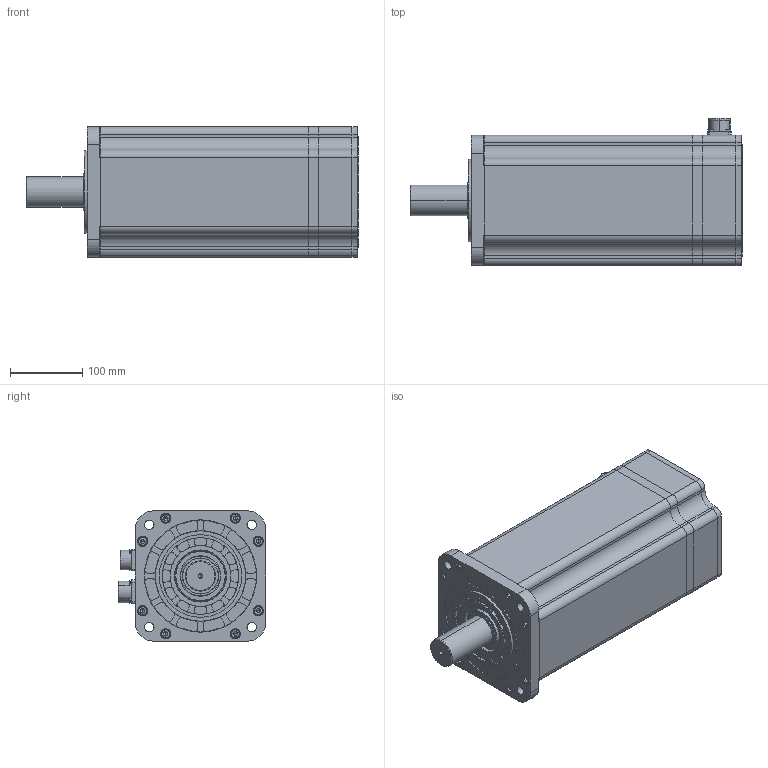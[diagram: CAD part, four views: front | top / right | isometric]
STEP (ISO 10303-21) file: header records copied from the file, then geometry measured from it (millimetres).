
FILE_DESCRIPTION (( 'STEP AP203' ), '1' );
FILE_NAME ('70680284£¨JLBH-3160-80-7RV£©.STEP', '2020-03-12T11:30:19', ( '' ), ( '' ), 'SwSTEP 2.0', 'SolidWorks 2016', '' );
FILE_SCHEMA (( 'CONFIG_CONTROL_DESIGN' ));
Length unit declared in the file: millimetre
Products named in the file (19): 隅赽軞傖; 1.1.21.KEB1803-0001 机壳（180L174）; 1.2.02.800003 坋趼麥芛 M8X16_GB_CROSS_SCREWS_TYPE4 M8X16-11.35  H type-C; 1.1.11.KMP180-0001 码盘罩（180L46）; 1.2.02.800002 囀鞠褒 M8X20_GB_FASTENER_SCREWS_HSHCS M8X20-C; 1.1.07.KSF180-0001 转轴（180总长307.5-轴承档147）-配HN20多圈; 1.2.05.200006 17郋弊莉陓瘍菁釱; 1.1.13.KYB180-0001 轴承压板（180）; 1.2.02.300002 囀鞠褒 M5X16_GB_FASTENER_SCREWS_HSHCS M5X16-C; 1.2.02.800001 囀鞠褒 M8X45_GB_FASTENER_SCREWS_HSHCS M8X45-C; hexagon socket head cap screws gb_GB_FASTENER_SCREWS_HSHCS M3X10-N; 1.1.12.KHG180-0001码盘罩后盖（180）; 1.3.03.200006 蚐猾 50x72x8; 1.1.02.KEB1802-0001 后端盖（180节圆55）; 1.2.09.000014 粣創 6207_Rolling bearings 6207 GB 276-94; 1.2.09.000013 粣創 6310_Rolling bearings 6310 GB 276-94; 1.1.01.KEB1801-0001 前端盖（180）; 70680284（JLBH-3160-80-7RV）; 1.2.05.100022 6郋弊莉萇埭菁釱
Assembly tree (47 placements, depth 3):
  70680284（JLBH-3160-80-7RV）
    1.1.07.KSF180-0001 转轴（180总长307.5-轴承档147）-配HN20多圈
    1.2.09.000013 粣創 6310_Rolling bearings 6310 GB 276-94
    1.2.09.000014 粣創 6207_Rolling bearings 6207 GB 276-94
    1.1.02.KEB1802-0001 后端盖（180节圆55）
    隅赽軞傖
      1.1.21.KEB1803-0001 机壳（180L174）
      1.1.01.KEB1801-0001 前端盖（180）
      1.3.03.200006 蚐猾 50x72x8
    1.1.13.KYB180-0001 轴承压板（180）
    1.2.02.300002 囀鞠褒 M5X16_GB_FASTENER_SCREWS_HSHCS M5X16-C  x6
    1.2.02.800002 囀鞠褒 M8X20_GB_FASTENER_SCREWS_HSHCS M8X20-C  x12
    1.2.02.800001 囀鞠褒 M8X45_GB_FASTENER_SCREWS_HSHCS M8X45-C  x4
    1.1.11.KMP180-0001 码盘罩（180L46）
    1.1.12.KHG180-0001码盘罩后盖（180）
    1.2.02.800003 坋趼麥芛 M8X16_GB_CROSS_SCREWS_TYPE4 M8X16-11.35  H type-C  x4
    1.2.05.100022 6郋弊莉萇埭菁釱
    1.2.05.200006 17郋弊莉陓瘍菁釱
    hexagon socket head cap screws gb_GB_FASTENER_SCREWS_HSHCS M3X10-N  x8
Bounding box: 458.8 x 203.5 x 180 mm (x, y, z)
Volume: 3902835.8 mm3; surface area: 960517.5 mm2
Topology: 46 solids, 46 shells, 2288 faces, 6291 edges, 4009 vertices
Faces by surface type: plane 895, cylinder 887, torus 200, cone 194, sphere 110, bspline 2
Entity records: 57632 total; most frequent: CARTESIAN_POINT 12998, DIRECTION 9305, ORIENTED_EDGE 8682, EDGE_CURVE 4341, AXIS2_PLACEMENT_3D 3824, VERTEX_POINT 2857, CIRCLE 2212, EDGE_LOOP 1826
